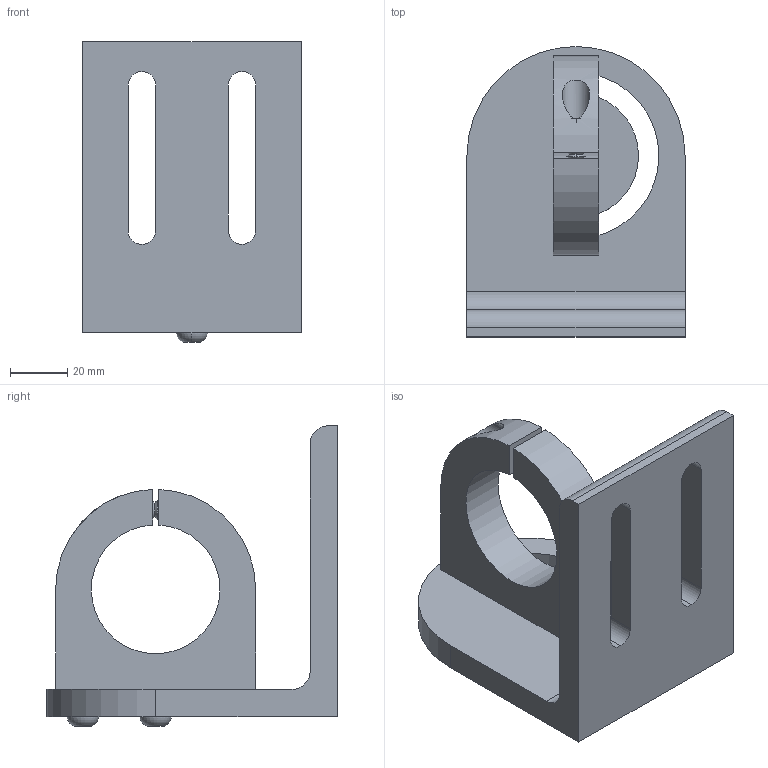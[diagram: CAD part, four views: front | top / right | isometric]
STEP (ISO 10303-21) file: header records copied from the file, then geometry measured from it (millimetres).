
FILE_DESCRIPTION (( 'STEP AP203' ), '1' );
FILE_NAME ('A-202-2.STEP', '2007-11-13T16:35:44', ( 'ANDREW' ), ( 'SIMONDS INC' ), 'SwSTEP 2.0', 'SolidWorks 2008', '' );
FILE_SCHEMA (( 'CONFIG_CONTROL_DESIGN' ));
Length unit declared in the file: millimetre
Products named in the file (5): A-202-2; A-200-1-1; A-202-2-1; A-200-1-02; A-200-1-5
Assembly tree (5 placements, depth 2):
  A-202-2
    A-202-2-1  x2
    A-200-1-5
    A-200-1-02
    A-200-1-1
Bounding box: 76.2 x 101.6 x 104.95 mm (x, y, z)
Volume: 160996.1 mm3; surface area: 48808.6 mm2
Topology: 5 solids, 5 shells, 213 faces, 460 edges, 268 vertices
Faces by surface type: cone 114, plane 53, cylinder 40, torus 6
Entity records: 5033 total; most frequent: DIRECTION 850, CARTESIAN_POINT 811, ORIENTED_EDGE 708, EDGE_CURVE 354, AXIS2_PLACEMENT_3D 329, VERTEX_POINT 210, VECTOR 192, LINE 192
